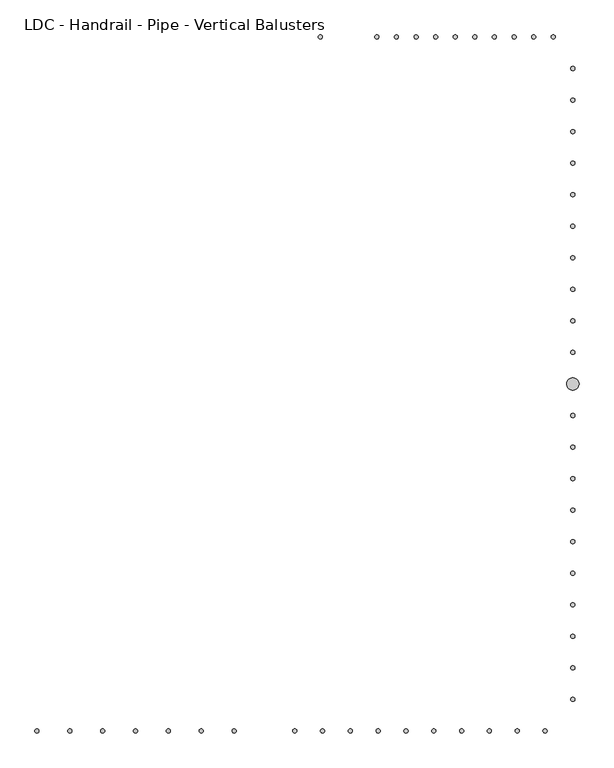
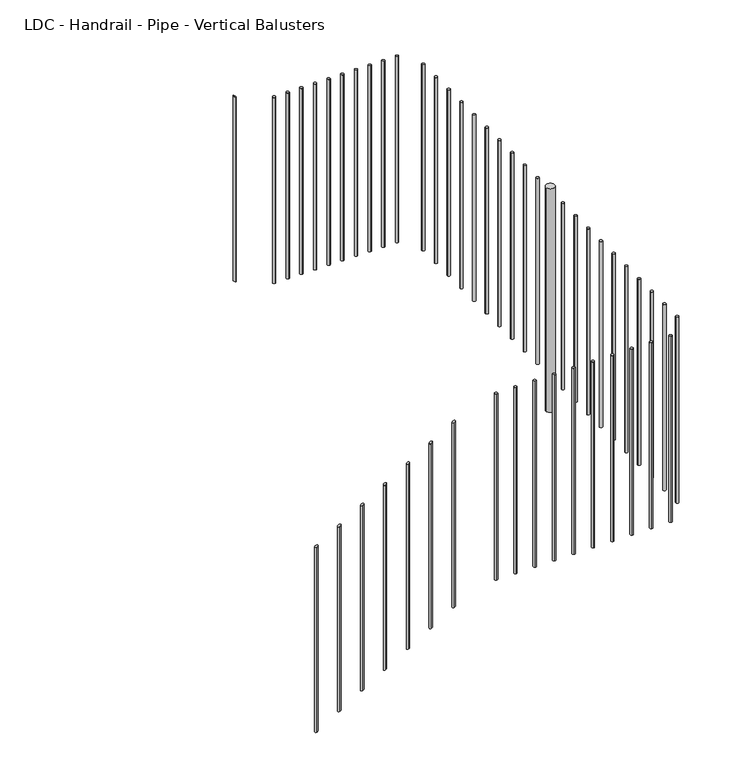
"""IFC4 building model written with IfcOpenShell, lengths in millimetres: railing geometry, LDC - Handrail - Pipe - Vertical Balusters."""

from ifc_helpers import new_model, si_unit, point, frame, frame_2d, origin, place, context, project, spatial, circle_curve, ellipse_curve, trimmed, segment, composite_curve, outline, extrude, source, transform, mapped, element, save
from ifc_brep_helpers import plane_surface, cylinder_surface, advanced_brep


def ldc_handrail_pipe_vertical_balusters_f98cdef8(model_context):
    return source(origin(), model_context, "Body", "SolidModel", [
        advanced_brep(
        [(-509.0516552, 10500.677236, 2621.7943594), (-509.0516552, 10500.677236, 1756.7079545), (-509.0516552, 10487.977236, 1756.7079545), (-509.0516552, 10487.977236, 2621.7943594)],
        [
            (0, 1),
            (1, 2, ellipse_curve(frame((-509.0516552, 10494.327236, 1756.7079545), z_axis=(0.5183017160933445, 0.0, 0.8551978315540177), x_axis=(-0.8551978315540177, 0.0, 0.5183017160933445)), 7.4251825, 6.35)),
            (2, 3),
            (3, 0, ellipse_curve(frame((-509.0516552, 10494.327236, 2621.7943594), z_axis=(-0.5183017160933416, 0.0, -0.8551978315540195), x_axis=(-0.8551978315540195, 0.0, 0.5183017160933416)), 7.4251825, 6.35)),
            (0, 3, ellipse_curve(frame((-509.0516552, 10494.327236, 2621.7943594), z_axis=(-0.5183017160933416, 0.0, -0.8551978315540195), x_axis=(-0.8551978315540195, 0.0, 0.5183017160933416)), 7.4251825, 6.35)),
            (2, 1, ellipse_curve(frame((-509.0516552, 10494.327236, 1756.7079545), z_axis=(0.5183017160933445, 0.0, 0.8551978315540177), x_axis=(-0.8551978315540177, 0.0, 0.5183017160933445)), 7.4251825, 6.35)),
        ],
        [
            cylinder_surface(frame((-509.0516552, 10494.327236, 1528.1079545), z_axis=(0.0, 0.0, 1.0), x_axis=(0.0, -1.0, 0.0)), 6.35),
            plane_surface(frame((-521.7516552, 10481.627236, 2629.4913291), z_axis=(0.5183017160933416, 0.0, 0.8551978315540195), x_axis=(0.0, 1.0, 0.0))),
            plane_surface(frame((-496.3516552, 10481.627236, 1749.0109848), z_axis=(-0.5183017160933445, 0.0, -0.8551978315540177), x_axis=(0.0, 1.0, 0.0))),
        ],
        [
            (0, [[1, 2, 3, 4]]),
            (0, [[-1, 5, -3, 6]]),
            (1, [[-4, -5]]),
            (2, [[-2, -6]]),
        ],
    ),
        extrude(outline(composite_curve([segment(trimmed(circle_curve(frame_2d((-334.1380188, 10494.327236)), 6.35), [point((-334.1380188, 10487.977236))], [point((-334.1380188, 10500.677236))], False, "CARTESIAN"), True, "CONTINUOUS"), segment(trimmed(circle_curve(frame_2d((-334.1380188, 10494.327236)), 6.35), [point((-334.1380188, 10500.677236))], [point((-334.1380188, 10487.977236))], False, "CARTESIAN"), True, "CONTINUOUS")], self_intersect=False)), frame((0.0, 0.0, 1687.1625), z_axis=(0.0, 0.0, 1.0), x_axis=(1.0, 0.0, 0.0)), (0.0, 0.0, 1.0), 871.5375),
        extrude(outline(composite_curve([segment(trimmed(circle_curve(frame_2d((-273.5243824, 10494.327236)), 6.35), [point((-273.5243824, 10487.977236))], [point((-273.5243824, 10500.677236))], False, "CARTESIAN"), True, "CONTINUOUS"), segment(trimmed(circle_curve(frame_2d((-273.5243824, 10494.327236)), 6.35), [point((-273.5243824, 10500.677236))], [point((-273.5243824, 10487.977236))], False, "CARTESIAN"), True, "CONTINUOUS")], self_intersect=False)), frame((0.0, 0.0, 1687.1625), z_axis=(0.0, 0.0, 1.0), x_axis=(1.0, 0.0, 0.0)), (0.0, 0.0, 1.0), 871.5375),
        extrude(outline(composite_curve([segment(trimmed(circle_curve(frame_2d((-212.9107461, 10494.327236)), 6.35), [point((-212.9107461, 10487.977236))], [point((-212.9107461, 10500.677236))], False, "CARTESIAN"), True, "CONTINUOUS"), segment(trimmed(circle_curve(frame_2d((-212.9107461, 10494.327236)), 6.35), [point((-212.9107461, 10500.677236))], [point((-212.9107461, 10487.977236))], False, "CARTESIAN"), True, "CONTINUOUS")], self_intersect=False)), frame((0.0, 0.0, 1687.1625), z_axis=(0.0, 0.0, 1.0), x_axis=(1.0, 0.0, 0.0)), (0.0, 0.0, 1.0), 871.5375),
        extrude(outline(composite_curve([segment(trimmed(circle_curve(frame_2d((-152.2971097, 10494.327236)), 6.35), [point((-152.2971097, 10487.977236))], [point((-152.2971097, 10500.677236))], False, "CARTESIAN"), True, "CONTINUOUS"), segment(trimmed(circle_curve(frame_2d((-152.2971097, 10494.327236)), 6.35), [point((-152.2971097, 10500.677236))], [point((-152.2971097, 10487.977236))], False, "CARTESIAN"), True, "CONTINUOUS")], self_intersect=False)), frame((0.0, 0.0, 1687.1625), z_axis=(0.0, 0.0, 1.0), x_axis=(1.0, 0.0, 0.0)), (0.0, 0.0, 1.0), 871.5375),
        extrude(outline(composite_curve([segment(trimmed(circle_curve(frame_2d((-91.6834734, 10494.327236)), 6.35), [point((-91.6834734, 10487.977236))], [point((-91.6834734, 10500.677236))], False, "CARTESIAN"), True, "CONTINUOUS"), segment(trimmed(circle_curve(frame_2d((-91.6834734, 10494.327236)), 6.35), [point((-91.6834734, 10500.677236))], [point((-91.6834734, 10487.977236))], False, "CARTESIAN"), True, "CONTINUOUS")], self_intersect=False)), frame((0.0, 0.0, 1687.1625), z_axis=(0.0, 0.0, 1.0), x_axis=(1.0, 0.0, 0.0)), (0.0, 0.0, 1.0), 871.5375),
        extrude(outline(composite_curve([segment(trimmed(circle_curve(frame_2d((-31.069837, 10494.327236)), 6.35), [point((-31.069837, 10487.977236))], [point((-31.069837, 10500.677236))], False, "CARTESIAN"), True, "CONTINUOUS"), segment(trimmed(circle_curve(frame_2d((-31.069837, 10494.327236)), 6.35), [point((-31.069837, 10500.677236))], [point((-31.069837, 10487.977236))], False, "CARTESIAN"), True, "CONTINUOUS")], self_intersect=False)), frame((0.0, 0.0, 1687.1625), z_axis=(0.0, 0.0, 1.0), x_axis=(1.0, 0.0, 0.0)), (0.0, 0.0, 1.0), 871.5375),
        extrude(outline(composite_curve([segment(trimmed(circle_curve(frame_2d((29.5437994, 10494.327236)), 6.35), [point((29.5437994, 10487.977236))], [point((29.5437994, 10500.677236))], False, "CARTESIAN"), True, "CONTINUOUS"), segment(trimmed(circle_curve(frame_2d((29.5437994, 10494.327236)), 6.35), [point((29.5437994, 10500.677236))], [point((29.5437994, 10487.977236))], False, "CARTESIAN"), True, "CONTINUOUS")], self_intersect=False)), frame((0.0, 0.0, 1687.1625), z_axis=(0.0, 0.0, 1.0), x_axis=(1.0, 0.0, 0.0)), (0.0, 0.0, 1.0), 871.5375),
        extrude(outline(composite_curve([segment(trimmed(circle_curve(frame_2d((90.1574357, 10494.327236)), 6.35), [point((90.1574357, 10487.977236))], [point((90.1574357, 10500.677236))], False, "CARTESIAN"), True, "CONTINUOUS"), segment(trimmed(circle_curve(frame_2d((90.1574357, 10494.327236)), 6.35), [point((90.1574357, 10500.677236))], [point((90.1574357, 10487.977236))], False, "CARTESIAN"), True, "CONTINUOUS")], self_intersect=False)), frame((0.0, 0.0, 1687.1625), z_axis=(0.0, 0.0, 1.0), x_axis=(1.0, 0.0, 0.0)), (0.0, 0.0, 1.0), 871.5375),
        extrude(outline(composite_curve([segment(trimmed(circle_curve(frame_2d((150.7710721, 10494.327236)), 6.35), [point((150.7710721, 10487.977236))], [point((150.7710721, 10500.677236))], False, "CARTESIAN"), True, "CONTINUOUS"), segment(trimmed(circle_curve(frame_2d((150.7710721, 10494.327236)), 6.35), [point((150.7710721, 10500.677236))], [point((150.7710721, 10487.977236))], False, "CARTESIAN"), True, "CONTINUOUS")], self_intersect=False)), frame((0.0, 0.0, 1687.1625), z_axis=(0.0, 0.0, 1.0), x_axis=(1.0, 0.0, 0.0)), (0.0, 0.0, 1.0), 871.5375),
        extrude(outline(composite_curve([segment(trimmed(circle_curve(frame_2d((211.3847085, 10494.327236)), 6.35), [point((211.3847085, 10487.977236))], [point((211.3847085, 10500.677236))], False, "CARTESIAN"), True, "CONTINUOUS"), segment(trimmed(circle_curve(frame_2d((211.3847085, 10494.327236)), 6.35), [point((211.3847085, 10500.677236))], [point((211.3847085, 10487.977236))], False, "CARTESIAN"), True, "CONTINUOUS")], self_intersect=False)), frame((0.0, 0.0, 1687.1625), z_axis=(0.0, 0.0, 1.0), x_axis=(1.0, 0.0, 0.0)), (0.0, 0.0, 1.0), 871.5375),
        extrude(outline(composite_curve([segment(trimmed(circle_curve(frame_2d((271.9983448, 10396.7681451)), 6.35), [point((265.6483448, 10396.7681451))], [point((278.3483448, 10396.7681451))], False, "CARTESIAN"), True, "CONTINUOUS"), segment(trimmed(circle_curve(frame_2d((271.9983448, 10396.7681451)), 6.35), [point((278.3483448, 10396.7681451))], [point((265.6483448, 10396.7681451))], False, "CARTESIAN"), True, "CONTINUOUS")], self_intersect=False)), frame((0.0, 0.0, 1687.1625), z_axis=(0.0, 0.0, 1.0), x_axis=(1.0, 0.0, 0.0)), (0.0, 0.0, 1.0), 871.5375),
        extrude(outline(composite_curve([segment(trimmed(circle_curve(frame_2d((271.9983448, 10299.2090542)), 6.35), [point((265.6483448, 10299.2090542))], [point((278.3483448, 10299.2090542))], False, "CARTESIAN"), True, "CONTINUOUS"), segment(trimmed(circle_curve(frame_2d((271.9983448, 10299.2090542)), 6.35), [point((278.3483448, 10299.2090542))], [point((265.6483448, 10299.2090542))], False, "CARTESIAN"), True, "CONTINUOUS")], self_intersect=False)), frame((0.0, 0.0, 1687.1625), z_axis=(0.0, 0.0, 1.0), x_axis=(1.0, 0.0, 0.0)), (0.0, 0.0, 1.0), 871.5375),
        extrude(outline(composite_curve([segment(trimmed(circle_curve(frame_2d((271.9983448, 10201.6499633)), 6.35), [point((265.6483448, 10201.6499633))], [point((278.3483448, 10201.6499633))], False, "CARTESIAN"), True, "CONTINUOUS"), segment(trimmed(circle_curve(frame_2d((271.9983448, 10201.6499633)), 6.35), [point((278.3483448, 10201.6499633))], [point((265.6483448, 10201.6499633))], False, "CARTESIAN"), True, "CONTINUOUS")], self_intersect=False)), frame((0.0, 0.0, 1687.1625), z_axis=(0.0, 0.0, 1.0), x_axis=(1.0, 0.0, 0.0)), (0.0, 0.0, 1.0), 871.5375),
        extrude(outline(composite_curve([segment(trimmed(circle_curve(frame_2d((271.9983448, 10104.0908724)), 6.35), [point((265.6483448, 10104.0908724))], [point((278.3483448, 10104.0908724))], False, "CARTESIAN"), True, "CONTINUOUS"), segment(trimmed(circle_curve(frame_2d((271.9983448, 10104.0908724)), 6.35), [point((278.3483448, 10104.0908724))], [point((265.6483448, 10104.0908724))], False, "CARTESIAN"), True, "CONTINUOUS")], self_intersect=False)), frame((0.0, 0.0, 1687.1625), z_axis=(0.0, 0.0, 1.0), x_axis=(1.0, 0.0, 0.0)), (0.0, 0.0, 1.0), 871.5375),
        extrude(outline(composite_curve([segment(trimmed(circle_curve(frame_2d((271.9983448, 10006.5317815)), 6.35), [point((265.6483448, 10006.5317815))], [point((278.3483448, 10006.5317815))], False, "CARTESIAN"), True, "CONTINUOUS"), segment(trimmed(circle_curve(frame_2d((271.9983448, 10006.5317815)), 6.35), [point((278.3483448, 10006.5317815))], [point((265.6483448, 10006.5317815))], False, "CARTESIAN"), True, "CONTINUOUS")], self_intersect=False)), frame((0.0, 0.0, 1687.1625), z_axis=(0.0, 0.0, 1.0), x_axis=(1.0, 0.0, 0.0)), (0.0, 0.0, 1.0), 871.5375),
        extrude(outline(composite_curve([segment(trimmed(circle_curve(frame_2d((271.9983448, 9908.9726906)), 6.35), [point((265.6483448, 9908.9726906))], [point((278.3483448, 9908.9726906))], False, "CARTESIAN"), True, "CONTINUOUS"), segment(trimmed(circle_curve(frame_2d((271.9983448, 9908.9726906)), 6.35), [point((278.3483448, 9908.9726906))], [point((265.6483448, 9908.9726906))], False, "CARTESIAN"), True, "CONTINUOUS")], self_intersect=False)), frame((0.0, 0.0, 1687.1625), z_axis=(0.0, 0.0, 1.0), x_axis=(1.0, 0.0, 0.0)), (0.0, 0.0, 1.0), 871.5375),
        extrude(outline(composite_curve([segment(trimmed(circle_curve(frame_2d((271.9983448, 9811.4135997)), 6.35), [point((265.6483448, 9811.4135997))], [point((278.3483448, 9811.4135997))], False, "CARTESIAN"), True, "CONTINUOUS"), segment(trimmed(circle_curve(frame_2d((271.9983448, 9811.4135997)), 6.35), [point((278.3483448, 9811.4135997))], [point((265.6483448, 9811.4135997))], False, "CARTESIAN"), True, "CONTINUOUS")], self_intersect=False)), frame((0.0, 0.0, 1687.1625), z_axis=(0.0, 0.0, 1.0), x_axis=(1.0, 0.0, 0.0)), (0.0, 0.0, 1.0), 871.5375),
        extrude(outline(composite_curve([segment(trimmed(circle_curve(frame_2d((271.9983448, 9713.8545087)), 6.35), [point((265.6483448, 9713.8545087))], [point((278.3483448, 9713.8545087))], False, "CARTESIAN"), True, "CONTINUOUS"), segment(trimmed(circle_curve(frame_2d((271.9983448, 9713.8545087)), 6.35), [point((278.3483448, 9713.8545087))], [point((265.6483448, 9713.8545087))], False, "CARTESIAN"), True, "CONTINUOUS")], self_intersect=False)), frame((0.0, 0.0, 1687.1625), z_axis=(0.0, 0.0, 1.0), x_axis=(1.0, 0.0, 0.0)), (0.0, 0.0, 1.0), 871.5375),
        extrude(outline(composite_curve([segment(trimmed(circle_curve(frame_2d((271.9983448, 9616.2954178)), 6.35), [point((265.6483448, 9616.2954178))], [point((278.3483448, 9616.2954178))], False, "CARTESIAN"), True, "CONTINUOUS"), segment(trimmed(circle_curve(frame_2d((271.9983448, 9616.2954178)), 6.35), [point((278.3483448, 9616.2954178))], [point((265.6483448, 9616.2954178))], False, "CARTESIAN"), True, "CONTINUOUS")], self_intersect=False)), frame((0.0, 0.0, 1687.1625), z_axis=(0.0, 0.0, 1.0), x_axis=(1.0, 0.0, 0.0)), (0.0, 0.0, 1.0), 871.5375),
        extrude(outline(composite_curve([segment(trimmed(circle_curve(frame_2d((271.9983448, 9518.7363269)), 6.35), [point((265.6483448, 9518.7363269))], [point((278.3483448, 9518.7363269))], False, "CARTESIAN"), True, "CONTINUOUS"), segment(trimmed(circle_curve(frame_2d((271.9983448, 9518.7363269)), 6.35), [point((278.3483448, 9518.7363269))], [point((265.6483448, 9518.7363269))], False, "CARTESIAN"), True, "CONTINUOUS")], self_intersect=False)), frame((0.0, 0.0, 1687.1625), z_axis=(0.0, 0.0, 1.0), x_axis=(1.0, 0.0, 0.0)), (0.0, 0.0, 1.0), 871.5375),
        extrude(outline(composite_curve([segment(trimmed(circle_curve(frame_2d((271.9983448, 9421.177236)), 19.05), [point((252.9483448, 9421.177236))], [point((291.0483448, 9421.177236))], False, "CARTESIAN"), True, "CONTINUOUS"), segment(trimmed(circle_curve(frame_2d((271.9983448, 9421.177236)), 19.05), [point((291.0483448, 9421.177236))], [point((252.9483448, 9421.177236))], False, "CARTESIAN"), True, "CONTINUOUS")], self_intersect=False)), frame((0.0, 0.0, 1530.0), z_axis=(0.0, 0.0, 1.0), x_axis=(1.0, 0.0, 0.0)), (0.0, 0.0, 1.0), 1047.75),
        extrude(outline(composite_curve([segment(trimmed(circle_curve(frame_2d((271.9983448, 9421.177236)), 6.35), [point((265.6483448, 9421.177236))], [point((278.3483448, 9421.177236))], False, "CARTESIAN"), True, "CONTINUOUS"), segment(trimmed(circle_curve(frame_2d((271.9983448, 9421.177236)), 6.35), [point((278.3483448, 9421.177236))], [point((265.6483448, 9421.177236))], False, "CARTESIAN"), True, "CONTINUOUS")], self_intersect=False)), frame((0.0, 0.0, 1687.1625), z_axis=(0.0, 0.0, 1.0), x_axis=(1.0, 0.0, 0.0)), (0.0, 0.0, 1.0), 871.5375),
        extrude(outline(composite_curve([segment(trimmed(circle_curve(frame_2d((271.9983448, 9323.6181451)), 6.35), [point((265.6483448, 9323.6181451))], [point((278.3483448, 9323.6181451))], False, "CARTESIAN"), True, "CONTINUOUS"), segment(trimmed(circle_curve(frame_2d((271.9983448, 9323.6181451)), 6.35), [point((278.3483448, 9323.6181451))], [point((265.6483448, 9323.6181451))], False, "CARTESIAN"), True, "CONTINUOUS")], self_intersect=False)), frame((0.0, 0.0, 1687.1625), z_axis=(0.0, 0.0, 1.0), x_axis=(1.0, 0.0, 0.0)), (0.0, 0.0, 1.0), 871.5375),
        extrude(outline(composite_curve([segment(trimmed(circle_curve(frame_2d((271.9983448, 9226.0590542)), 6.35), [point((265.6483448, 9226.0590542))], [point((278.3483448, 9226.0590542))], False, "CARTESIAN"), True, "CONTINUOUS"), segment(trimmed(circle_curve(frame_2d((271.9983448, 9226.0590542)), 6.35), [point((278.3483448, 9226.0590542))], [point((265.6483448, 9226.0590542))], False, "CARTESIAN"), True, "CONTINUOUS")], self_intersect=False)), frame((0.0, 0.0, 1687.1625), z_axis=(0.0, 0.0, 1.0), x_axis=(1.0, 0.0, 0.0)), (0.0, 0.0, 1.0), 871.5375),
        extrude(outline(composite_curve([segment(trimmed(circle_curve(frame_2d((271.9983448, 9128.4999633)), 6.35), [point((265.6483448, 9128.4999633))], [point((278.3483448, 9128.4999633))], False, "CARTESIAN"), True, "CONTINUOUS"), segment(trimmed(circle_curve(frame_2d((271.9983448, 9128.4999633)), 6.35), [point((278.3483448, 9128.4999633))], [point((265.6483448, 9128.4999633))], False, "CARTESIAN"), True, "CONTINUOUS")], self_intersect=False)), frame((0.0, 0.0, 1687.1625), z_axis=(0.0, 0.0, 1.0), x_axis=(1.0, 0.0, 0.0)), (0.0, 0.0, 1.0), 871.5375),
        extrude(outline(composite_curve([segment(trimmed(circle_curve(frame_2d((271.9983448, 9030.9408724)), 6.35), [point((265.6483448, 9030.9408724))], [point((278.3483448, 9030.9408724))], False, "CARTESIAN"), True, "CONTINUOUS"), segment(trimmed(circle_curve(frame_2d((271.9983448, 9030.9408724)), 6.35), [point((278.3483448, 9030.9408724))], [point((265.6483448, 9030.9408724))], False, "CARTESIAN"), True, "CONTINUOUS")], self_intersect=False)), frame((0.0, 0.0, 1687.1625), z_axis=(0.0, 0.0, 1.0), x_axis=(1.0, 0.0, 0.0)), (0.0, 0.0, 1.0), 871.5375),
        extrude(outline(composite_curve([segment(trimmed(circle_curve(frame_2d((271.9983448, 8933.3817815)), 6.35), [point((265.6483448, 8933.3817815))], [point((278.3483448, 8933.3817815))], False, "CARTESIAN"), True, "CONTINUOUS"), segment(trimmed(circle_curve(frame_2d((271.9983448, 8933.3817815)), 6.35), [point((278.3483448, 8933.3817815))], [point((265.6483448, 8933.3817815))], False, "CARTESIAN"), True, "CONTINUOUS")], self_intersect=False)), frame((0.0, 0.0, 1687.1625), z_axis=(0.0, 0.0, 1.0), x_axis=(1.0, 0.0, 0.0)), (0.0, 0.0, 1.0), 871.5375),
        extrude(outline(composite_curve([segment(trimmed(circle_curve(frame_2d((271.9983448, 8835.8226906)), 6.35), [point((265.6483448, 8835.8226906))], [point((278.3483448, 8835.8226906))], False, "CARTESIAN"), True, "CONTINUOUS"), segment(trimmed(circle_curve(frame_2d((271.9983448, 8835.8226906)), 6.35), [point((278.3483448, 8835.8226906))], [point((265.6483448, 8835.8226906))], False, "CARTESIAN"), True, "CONTINUOUS")], self_intersect=False)), frame((0.0, 0.0, 1687.1625), z_axis=(0.0, 0.0, 1.0), x_axis=(1.0, 0.0, 0.0)), (0.0, 0.0, 1.0), 871.5375),
        extrude(outline(composite_curve([segment(trimmed(circle_curve(frame_2d((271.9983448, 8738.2635997)), 6.35), [point((265.6483448, 8738.2635997))], [point((278.3483448, 8738.2635997))], False, "CARTESIAN"), True, "CONTINUOUS"), segment(trimmed(circle_curve(frame_2d((271.9983448, 8738.2635997)), 6.35), [point((278.3483448, 8738.2635997))], [point((265.6483448, 8738.2635997))], False, "CARTESIAN"), True, "CONTINUOUS")], self_intersect=False)), frame((0.0, 0.0, 1687.1625), z_axis=(0.0, 0.0, 1.0), x_axis=(1.0, 0.0, 0.0)), (0.0, 0.0, 1.0), 871.5375),
        extrude(outline(composite_curve([segment(trimmed(circle_curve(frame_2d((271.9983448, 8640.7045087)), 6.35), [point((265.6483448, 8640.7045087))], [point((278.3483448, 8640.7045087))], False, "CARTESIAN"), True, "CONTINUOUS"), segment(trimmed(circle_curve(frame_2d((271.9983448, 8640.7045087)), 6.35), [point((278.3483448, 8640.7045087))], [point((265.6483448, 8640.7045087))], False, "CARTESIAN"), True, "CONTINUOUS")], self_intersect=False)), frame((0.0, 0.0, 1687.1625), z_axis=(0.0, 0.0, 1.0), x_axis=(1.0, 0.0, 0.0)), (0.0, 0.0, 1.0), 871.5375),
        extrude(outline(composite_curve([segment(trimmed(circle_curve(frame_2d((271.9983448, 8543.1454178)), 6.35), [point((265.6483448, 8543.1454178))], [point((278.3483448, 8543.1454178))], False, "CARTESIAN"), True, "CONTINUOUS"), segment(trimmed(circle_curve(frame_2d((271.9983448, 8543.1454178)), 6.35), [point((278.3483448, 8543.1454178))], [point((265.6483448, 8543.1454178))], False, "CARTESIAN"), True, "CONTINUOUS")], self_intersect=False)), frame((0.0, 0.0, 1687.1625), z_axis=(0.0, 0.0, 1.0), x_axis=(1.0, 0.0, 0.0)), (0.0, 0.0, 1.0), 871.5375),
        extrude(outline(composite_curve([segment(trimmed(circle_curve(frame_2d((271.9983448, 8445.5863269)), 6.35), [point((265.6483448, 8445.5863269))], [point((278.3483448, 8445.5863269))], False, "CARTESIAN"), True, "CONTINUOUS"), segment(trimmed(circle_curve(frame_2d((271.9983448, 8445.5863269)), 6.35), [point((278.3483448, 8445.5863269))], [point((265.6483448, 8445.5863269))], False, "CARTESIAN"), True, "CONTINUOUS")], self_intersect=False)), frame((0.0, 0.0, 1687.1625), z_axis=(0.0, 0.0, 1.0), x_axis=(1.0, 0.0, 0.0)), (0.0, 0.0, 1.0), 871.5375),
        extrude(outline(composite_curve([segment(trimmed(circle_curve(frame_2d((185.9847085, 8348.027236)), 6.35), [point((185.9847085, 8354.377236))], [point((185.9847085, 8341.677236))], False, "CARTESIAN"), True, "CONTINUOUS"), segment(trimmed(circle_curve(frame_2d((185.9847085, 8348.027236)), 6.35), [point((185.9847085, 8341.677236))], [point((185.9847085, 8354.377236))], False, "CARTESIAN"), True, "CONTINUOUS")], self_intersect=False)), frame((0.0, 0.0, 1687.1625), z_axis=(0.0, 0.0, 1.0), x_axis=(1.0, 0.0, 0.0)), (0.0, 0.0, 1.0), 871.5375),
        extrude(outline(composite_curve([segment(trimmed(circle_curve(frame_2d((99.9710721, 8348.027236)), 6.35), [point((99.9710721, 8354.377236))], [point((99.9710721, 8341.677236))], False, "CARTESIAN"), True, "CONTINUOUS"), segment(trimmed(circle_curve(frame_2d((99.9710721, 8348.027236)), 6.35), [point((99.9710721, 8341.677236))], [point((99.9710721, 8354.377236))], False, "CARTESIAN"), True, "CONTINUOUS")], self_intersect=False)), frame((0.0, 0.0, 1687.1625), z_axis=(0.0, 0.0, 1.0), x_axis=(1.0, 0.0, 0.0)), (0.0, 0.0, 1.0), 871.5375),
        extrude(outline(composite_curve([segment(trimmed(circle_curve(frame_2d((13.9574357, 8348.027236)), 6.35), [point((13.9574357, 8354.377236))], [point((13.9574357, 8341.677236))], False, "CARTESIAN"), True, "CONTINUOUS"), segment(trimmed(circle_curve(frame_2d((13.9574357, 8348.027236)), 6.35), [point((13.9574357, 8341.677236))], [point((13.9574357, 8354.377236))], False, "CARTESIAN"), True, "CONTINUOUS")], self_intersect=False)), frame((0.0, 0.0, 1687.1625), z_axis=(0.0, 0.0, 1.0), x_axis=(1.0, 0.0, 0.0)), (0.0, 0.0, 1.0), 871.5375),
        extrude(outline(composite_curve([segment(trimmed(circle_curve(frame_2d((-72.0562006, 8348.027236)), 6.35), [point((-72.0562006, 8354.377236))], [point((-72.0562006, 8341.677236))], False, "CARTESIAN"), True, "CONTINUOUS"), segment(trimmed(circle_curve(frame_2d((-72.0562006, 8348.027236)), 6.35), [point((-72.0562006, 8341.677236))], [point((-72.0562006, 8354.377236))], False, "CARTESIAN"), True, "CONTINUOUS")], self_intersect=False)), frame((0.0, 0.0, 1687.1625), z_axis=(0.0, 0.0, 1.0), x_axis=(1.0, 0.0, 0.0)), (0.0, 0.0, 1.0), 871.5375),
        extrude(outline(composite_curve([segment(trimmed(circle_curve(frame_2d((-158.069837, 8348.027236)), 6.35), [point((-158.069837, 8354.377236))], [point((-158.069837, 8341.677236))], False, "CARTESIAN"), True, "CONTINUOUS"), segment(trimmed(circle_curve(frame_2d((-158.069837, 8348.027236)), 6.35), [point((-158.069837, 8341.677236))], [point((-158.069837, 8354.377236))], False, "CARTESIAN"), True, "CONTINUOUS")], self_intersect=False)), frame((0.0, 0.0, 1687.1625), z_axis=(0.0, 0.0, 1.0), x_axis=(1.0, 0.0, 0.0)), (0.0, 0.0, 1.0), 871.5375),
        extrude(outline(composite_curve([segment(trimmed(circle_curve(frame_2d((-244.0834734, 8348.027236)), 6.35), [point((-244.0834734, 8354.377236))], [point((-244.0834734, 8341.677236))], False, "CARTESIAN"), True, "CONTINUOUS"), segment(trimmed(circle_curve(frame_2d((-244.0834734, 8348.027236)), 6.35), [point((-244.0834734, 8341.677236))], [point((-244.0834734, 8354.377236))], False, "CARTESIAN"), True, "CONTINUOUS")], self_intersect=False)), frame((0.0, 0.0, 1687.1625), z_axis=(0.0, 0.0, 1.0), x_axis=(1.0, 0.0, 0.0)), (0.0, 0.0, 1.0), 871.5375),
        extrude(outline(composite_curve([segment(trimmed(circle_curve(frame_2d((-330.0971097, 8348.027236)), 6.35), [point((-330.0971097, 8354.377236))], [point((-330.0971097, 8341.677236))], False, "CARTESIAN"), True, "CONTINUOUS"), segment(trimmed(circle_curve(frame_2d((-330.0971097, 8348.027236)), 6.35), [point((-330.0971097, 8341.677236))], [point((-330.0971097, 8354.377236))], False, "CARTESIAN"), True, "CONTINUOUS")], self_intersect=False)), frame((0.0, 0.0, 1687.1625), z_axis=(0.0, 0.0, 1.0), x_axis=(1.0, 0.0, 0.0)), (0.0, 0.0, 1.0), 871.5375),
        extrude(outline(composite_curve([segment(trimmed(circle_curve(frame_2d((-416.1107461, 8348.027236)), 6.35), [point((-416.1107461, 8354.377236))], [point((-416.1107461, 8341.677236))], False, "CARTESIAN"), True, "CONTINUOUS"), segment(trimmed(circle_curve(frame_2d((-416.1107461, 8348.027236)), 6.35), [point((-416.1107461, 8341.677236))], [point((-416.1107461, 8354.377236))], False, "CARTESIAN"), True, "CONTINUOUS")], self_intersect=False)), frame((0.0, 0.0, 1687.1625), z_axis=(0.0, 0.0, 1.0), x_axis=(1.0, 0.0, 0.0)), (0.0, 0.0, 1.0), 871.5375),
        extrude(outline(composite_curve([segment(trimmed(circle_curve(frame_2d((-502.1243824, 8348.027236)), 6.35), [point((-502.1243824, 8354.377236))], [point((-502.1243824, 8341.677236))], False, "CARTESIAN"), True, "CONTINUOUS"), segment(trimmed(circle_curve(frame_2d((-502.1243824, 8348.027236)), 6.35), [point((-502.1243824, 8341.677236))], [point((-502.1243824, 8354.377236))], False, "CARTESIAN"), True, "CONTINUOUS")], self_intersect=False)), frame((0.0, 0.0, 1687.1625), z_axis=(0.0, 0.0, 1.0), x_axis=(1.0, 0.0, 0.0)), (0.0, 0.0, 1.0), 871.5375),
        extrude(outline(composite_curve([segment(trimmed(circle_curve(frame_2d((-588.1380188, 8348.027236)), 6.35), [point((-588.1380188, 8354.377236))], [point((-588.1380188, 8341.677236))], False, "CARTESIAN"), True, "CONTINUOUS"), segment(trimmed(circle_curve(frame_2d((-588.1380188, 8348.027236)), 6.35), [point((-588.1380188, 8341.677236))], [point((-588.1380188, 8354.377236))], False, "CARTESIAN"), True, "CONTINUOUS")], self_intersect=False)), frame((0.0, 0.0, 1687.1625), z_axis=(0.0, 0.0, 1.0), x_axis=(1.0, 0.0, 0.0)), (0.0, 0.0, 1.0), 871.5375),
        advanced_brep(
        [(-775.7516552, 8341.677236, 2490.430723), (-775.7516552, 8341.677236, 1625.3443182), (-775.7516552, 8354.377236, 1625.3443182), (-775.7516552, 8354.377236, 2490.430723)],
        [
            (0, 1),
            (1, 2, ellipse_curve(frame((-775.7516552, 8348.027236, 1625.3443182), z_axis=(-0.5183017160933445, 0.0, 0.8551978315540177), x_axis=(0.8551978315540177, 0.0, 0.5183017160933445)), 7.4251825, 6.35)),
            (2, 3),
            (3, 0, ellipse_curve(frame((-775.7516552, 8348.027236, 2490.430723), z_axis=(0.5183017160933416, 0.0, -0.8551978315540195), x_axis=(0.8551978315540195, 0.0, 0.5183017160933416)), 7.4251825, 6.35)),
            (0, 3, ellipse_curve(frame((-775.7516552, 8348.027236, 2490.430723), z_axis=(0.5183017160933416, 0.0, -0.8551978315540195), x_axis=(0.8551978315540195, 0.0, 0.5183017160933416)), 7.4251825, 6.35)),
            (2, 1, ellipse_curve(frame((-775.7516552, 8348.027236, 1625.3443182), z_axis=(-0.5183017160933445, 0.0, 0.8551978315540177), x_axis=(0.8551978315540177, 0.0, 0.5183017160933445)), 7.4251825, 6.35)),
        ],
        [
            cylinder_surface(frame((-775.7516552, 8348.027236, 1396.7443182), z_axis=(0.0, 0.0, 1.0), x_axis=(0.0, 1.0, 0.0)), 6.35),
            plane_surface(frame((-763.0516552, 8360.727236, 2498.1276927), z_axis=(-0.5183017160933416, 0.0, 0.8551978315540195), x_axis=(0.0, -1.0, 0.0))),
            plane_surface(frame((-788.4516552, 8360.727236, 1617.6473485), z_axis=(0.5183017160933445, 0.0, -0.8551978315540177), x_axis=(0.0, -1.0, 0.0))),
        ],
        [
            (0, [[1, 2, 3, 4]]),
            (0, [[-1, 5, -3, 6]]),
            (1, [[-4, -5]]),
            (2, [[-2, -6]]),
        ],
    ),
        advanced_brep(
        [(-877.3516552, 8341.677236, 2428.6125412), (-877.3516552, 8341.677236, 1563.5261364), (-877.3516552, 8354.377236, 1563.5261364), (-877.3516552, 8354.377236, 2428.6125412)],
        [
            (0, 1),
            (1, 2, ellipse_curve(frame((-877.3516552, 8348.027236, 1563.5261364), z_axis=(-0.5183017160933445, 0.0, 0.8551978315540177), x_axis=(0.8551978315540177, 0.0, 0.5183017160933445)), 7.4251825, 6.35)),
            (2, 3),
            (3, 0, ellipse_curve(frame((-877.3516552, 8348.027236, 2428.6125412), z_axis=(0.5183017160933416, 0.0, -0.8551978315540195), x_axis=(0.8551978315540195, 0.0, 0.5183017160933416)), 7.4251825, 6.35)),
            (0, 3, ellipse_curve(frame((-877.3516552, 8348.027236, 2428.6125412), z_axis=(0.5183017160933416, 0.0, -0.8551978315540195), x_axis=(0.8551978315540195, 0.0, 0.5183017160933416)), 7.4251825, 6.35)),
            (2, 1, ellipse_curve(frame((-877.3516552, 8348.027236, 1563.5261364), z_axis=(-0.5183017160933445, 0.0, 0.8551978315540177), x_axis=(0.8551978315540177, 0.0, 0.5183017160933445)), 7.4251825, 6.35)),
        ],
        [
            cylinder_surface(frame((-877.3516552, 8348.027236, 1334.9261364), z_axis=(0.0, 0.0, 1.0), x_axis=(0.0, 1.0, 0.0)), 6.35),
            plane_surface(frame((-864.6516552, 8360.727236, 2436.3095109), z_axis=(-0.5183017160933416, 0.0, 0.8551978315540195), x_axis=(0.0, -1.0, 0.0))),
            plane_surface(frame((-890.0516552, 8360.727236, 1555.8291667), z_axis=(0.5183017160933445, 0.0, -0.8551978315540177), x_axis=(0.0, -1.0, 0.0))),
        ],
        [
            (0, [[1, 2, 3, 4]]),
            (0, [[-1, 5, -3, 6]]),
            (1, [[-4, -5]]),
            (2, [[-2, -6]]),
        ],
    ),
        advanced_brep(
        [(-978.9516552, 8341.677236, 2366.7943594), (-978.9516552, 8341.677236, 1501.7079545), (-978.9516552, 8354.377236, 1501.7079545), (-978.9516552, 8354.377236, 2366.7943594)],
        [
            (0, 1),
            (1, 2, ellipse_curve(frame((-978.9516552, 8348.027236, 1501.7079545), z_axis=(-0.5183017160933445, 0.0, 0.8551978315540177), x_axis=(0.8551978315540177, 0.0, 0.5183017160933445)), 7.4251825, 6.35)),
            (2, 3),
            (3, 0, ellipse_curve(frame((-978.9516552, 8348.027236, 2366.7943594), z_axis=(0.5183017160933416, 0.0, -0.8551978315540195), x_axis=(0.8551978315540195, 0.0, 0.5183017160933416)), 7.4251825, 6.35)),
            (0, 3, ellipse_curve(frame((-978.9516552, 8348.027236, 2366.7943594), z_axis=(0.5183017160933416, 0.0, -0.8551978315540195), x_axis=(0.8551978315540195, 0.0, 0.5183017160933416)), 7.4251825, 6.35)),
            (2, 1, ellipse_curve(frame((-978.9516552, 8348.027236, 1501.7079545), z_axis=(-0.5183017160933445, 0.0, 0.8551978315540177), x_axis=(0.8551978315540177, 0.0, 0.5183017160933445)), 7.4251825, 6.35)),
        ],
        [
            cylinder_surface(frame((-978.9516552, 8348.027236, 1273.1079545), z_axis=(0.0, 0.0, 1.0), x_axis=(0.0, 1.0, 0.0)), 6.35),
            plane_surface(frame((-966.2516552, 8360.727236, 2374.4913291), z_axis=(-0.5183017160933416, 0.0, 0.8551978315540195), x_axis=(0.0, -1.0, 0.0))),
            plane_surface(frame((-991.6516552, 8360.727236, 1494.0109848), z_axis=(0.5183017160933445, 0.0, -0.8551978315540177), x_axis=(0.0, -1.0, 0.0))),
        ],
        [
            (0, [[1, 2, 3, 4]]),
            (0, [[-1, 5, -3, 6]]),
            (1, [[-4, -5]]),
            (2, [[-2, -6]]),
        ],
    ),
        advanced_brep(
        [(-1080.5516552, 8341.677236, 2304.9761775), (-1080.5516552, 8341.677236, 1439.8897727), (-1080.5516552, 8354.377236, 1439.8897727), (-1080.5516552, 8354.377236, 2304.9761775)],
        [
            (0, 1),
            (1, 2, ellipse_curve(frame((-1080.5516552, 8348.027236, 1439.8897727), z_axis=(-0.5183017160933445, 0.0, 0.8551978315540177), x_axis=(0.8551978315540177, 0.0, 0.5183017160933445)), 7.4251825, 6.35)),
            (2, 3),
            (3, 0, ellipse_curve(frame((-1080.5516552, 8348.027236, 2304.9761775), z_axis=(0.5183017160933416, 0.0, -0.8551978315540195), x_axis=(0.8551978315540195, 0.0, 0.5183017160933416)), 7.4251825, 6.35)),
            (0, 3, ellipse_curve(frame((-1080.5516552, 8348.027236, 2304.9761775), z_axis=(0.5183017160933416, 0.0, -0.8551978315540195), x_axis=(0.8551978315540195, 0.0, 0.5183017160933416)), 7.4251825, 6.35)),
            (2, 1, ellipse_curve(frame((-1080.5516552, 8348.027236, 1439.8897727), z_axis=(-0.5183017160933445, 0.0, 0.8551978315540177), x_axis=(0.8551978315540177, 0.0, 0.5183017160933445)), 7.4251825, 6.35)),
        ],
        [
            cylinder_surface(frame((-1080.5516552, 8348.027236, 1211.2897727), z_axis=(0.0, 0.0, 1.0), x_axis=(0.0, 1.0, 0.0)), 6.35),
            plane_surface(frame((-1067.8516552, 8360.727236, 2312.6731472), z_axis=(-0.5183017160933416, 0.0, 0.8551978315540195), x_axis=(0.0, -1.0, 0.0))),
            plane_surface(frame((-1093.2516552, 8360.727236, 1432.192803), z_axis=(0.5183017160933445, 0.0, -0.8551978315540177), x_axis=(0.0, -1.0, 0.0))),
        ],
        [
            (0, [[1, 2, 3, 4]]),
            (0, [[-1, 5, -3, 6]]),
            (1, [[-4, -5]]),
            (2, [[-2, -6]]),
        ],
    ),
        advanced_brep(
        [(-1182.1516552, 8341.677236, 2243.1579957), (-1182.1516552, 8341.677236, 1378.0715909), (-1182.1516552, 8354.377236, 1378.0715909), (-1182.1516552, 8354.377236, 2243.1579957)],
        [
            (0, 1),
            (1, 2, ellipse_curve(frame((-1182.1516552, 8348.027236, 1378.0715909), z_axis=(-0.5183017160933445, 0.0, 0.8551978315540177), x_axis=(0.8551978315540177, 0.0, 0.5183017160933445)), 7.4251825, 6.35)),
            (2, 3),
            (3, 0, ellipse_curve(frame((-1182.1516552, 8348.027236, 2243.1579957), z_axis=(0.5183017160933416, 0.0, -0.8551978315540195), x_axis=(0.8551978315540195, 0.0, 0.5183017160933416)), 7.4251825, 6.35)),
            (0, 3, ellipse_curve(frame((-1182.1516552, 8348.027236, 2243.1579957), z_axis=(0.5183017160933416, 0.0, -0.8551978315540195), x_axis=(0.8551978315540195, 0.0, 0.5183017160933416)), 7.4251825, 6.35)),
            (2, 1, ellipse_curve(frame((-1182.1516552, 8348.027236, 1378.0715909), z_axis=(-0.5183017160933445, 0.0, 0.8551978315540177), x_axis=(0.8551978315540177, 0.0, 0.5183017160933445)), 7.4251825, 6.35)),
        ],
        [
            cylinder_surface(frame((-1182.1516552, 8348.027236, 1149.4715909), z_axis=(0.0, 0.0, 1.0), x_axis=(0.0, 1.0, 0.0)), 6.35),
            plane_surface(frame((-1169.4516552, 8360.727236, 2250.8549654), z_axis=(-0.5183017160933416, 0.0, 0.8551978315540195), x_axis=(0.0, -1.0, 0.0))),
            plane_surface(frame((-1194.8516552, 8360.727236, 1370.3746212), z_axis=(0.5183017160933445, 0.0, -0.8551978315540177), x_axis=(0.0, -1.0, 0.0))),
        ],
        [
            (0, [[1, 2, 3, 4]]),
            (0, [[-1, 5, -3, 6]]),
            (1, [[-4, -5]]),
            (2, [[-2, -6]]),
        ],
    ),
        advanced_brep(
        [(-1283.7516552, 8341.677236, 2181.3398139), (-1283.7516552, 8341.677236, 1316.2534091), (-1283.7516552, 8354.377236, 1316.2534091), (-1283.7516552, 8354.377236, 2181.3398139)],
        [
            (0, 1),
            (1, 2, ellipse_curve(frame((-1283.7516552, 8348.027236, 1316.2534091), z_axis=(-0.5183017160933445, 0.0, 0.8551978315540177), x_axis=(0.8551978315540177, 0.0, 0.5183017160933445)), 7.4251825, 6.35)),
            (2, 3),
            (3, 0, ellipse_curve(frame((-1283.7516552, 8348.027236, 2181.3398139), z_axis=(0.5183017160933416, 0.0, -0.8551978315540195), x_axis=(0.8551978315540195, 0.0, 0.5183017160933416)), 7.4251825, 6.35)),
            (0, 3, ellipse_curve(frame((-1283.7516552, 8348.027236, 2181.3398139), z_axis=(0.5183017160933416, 0.0, -0.8551978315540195), x_axis=(0.8551978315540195, 0.0, 0.5183017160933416)), 7.4251825, 6.35)),
            (2, 1, ellipse_curve(frame((-1283.7516552, 8348.027236, 1316.2534091), z_axis=(-0.5183017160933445, 0.0, 0.8551978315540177), x_axis=(0.8551978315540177, 0.0, 0.5183017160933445)), 7.4251825, 6.35)),
        ],
        [
            cylinder_surface(frame((-1283.7516552, 8348.027236, 1087.6534091), z_axis=(0.0, 0.0, 1.0), x_axis=(0.0, 1.0, 0.0)), 6.35),
            plane_surface(frame((-1271.0516552, 8360.727236, 2189.0367836), z_axis=(-0.5183017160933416, 0.0, 0.8551978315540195), x_axis=(0.0, -1.0, 0.0))),
            plane_surface(frame((-1296.4516552, 8360.727236, 1308.5564394), z_axis=(0.5183017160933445, 0.0, -0.8551978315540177), x_axis=(0.0, -1.0, 0.0))),
        ],
        [
            (0, [[1, 2, 3, 4]]),
            (0, [[-1, 5, -3, 6]]),
            (1, [[-4, -5]]),
            (2, [[-2, -6]]),
        ],
    ),
        advanced_brep(
        [(-1385.3516552, 8341.677236, 2119.5216321), (-1385.3516552, 8341.677236, 1254.4352273), (-1385.3516552, 8354.377236, 1254.4352273), (-1385.3516552, 8354.377236, 2119.5216321)],
        [
            (0, 1),
            (1, 2, ellipse_curve(frame((-1385.3516552, 8348.027236, 1254.4352273), z_axis=(-0.5183017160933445, 0.0, 0.8551978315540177), x_axis=(0.8551978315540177, 0.0, 0.5183017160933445)), 7.4251825, 6.35)),
            (2, 3),
            (3, 0, ellipse_curve(frame((-1385.3516552, 8348.027236, 2119.5216321), z_axis=(0.5183017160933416, 0.0, -0.8551978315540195), x_axis=(0.8551978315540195, 0.0, 0.5183017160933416)), 7.4251825, 6.35)),
            (0, 3, ellipse_curve(frame((-1385.3516552, 8348.027236, 2119.5216321), z_axis=(0.5183017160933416, 0.0, -0.8551978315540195), x_axis=(0.8551978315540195, 0.0, 0.5183017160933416)), 7.4251825, 6.35)),
            (2, 1, ellipse_curve(frame((-1385.3516552, 8348.027236, 1254.4352273), z_axis=(-0.5183017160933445, 0.0, 0.8551978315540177), x_axis=(0.8551978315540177, 0.0, 0.5183017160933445)), 7.4251825, 6.35)),
        ],
        [
            cylinder_surface(frame((-1385.3516552, 8348.027236, 1025.8352273), z_axis=(0.0, 0.0, 1.0), x_axis=(0.0, 1.0, 0.0)), 6.35),
            plane_surface(frame((-1372.6516552, 8360.727236, 2127.2186018), z_axis=(-0.5183017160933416, 0.0, 0.8551978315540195), x_axis=(0.0, -1.0, 0.0))),
            plane_surface(frame((-1398.0516552, 8360.727236, 1246.7382576), z_axis=(0.5183017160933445, 0.0, -0.8551978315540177), x_axis=(0.0, -1.0, 0.0))),
        ],
        [
            (0, [[1, 2, 3, 4]]),
            (0, [[-1, 5, -3, 6]]),
            (1, [[-4, -5]]),
            (2, [[-2, -6]]),
        ],
    ),
    ])


if __name__ == "__main__":
    model = new_model("IFC4")
    model_context = context("Model", 3, world=origin())
    ifc_project = project(units=[si_unit("LENGTHUNIT", "METRE", prefix="MILLI")], contexts=[model_context])
    site = spatial("IfcSite", under=ifc_project)
    building = spatial("IfcBuilding", under=site)
    placement = place(None, origin())
    ldc_handrail_pipe_vertical_balusters_shape = ldc_handrail_pipe_vertical_balusters_f98cdef8(model_context)
    element("IfcRailing", 1, ObjectType="LDC - Handrail - Pipe - Vertical Balusters", at=placement, inside=building, context=model_context, shape_type="MappedRepresentation", body=[
        mapped(ldc_handrail_pipe_vertical_balusters_shape, transform((0.0, 0.0, 0.0), x_axis=(1.0, 0.0, 0.0), y_axis=(0.0, 1.0, 0.0), z_axis=(0.0, 0.0, 1.0))),
    ])
    save(model, "model.ifc")
